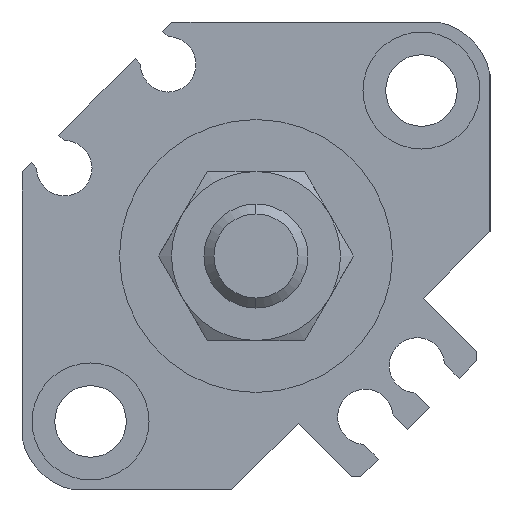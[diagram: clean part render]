
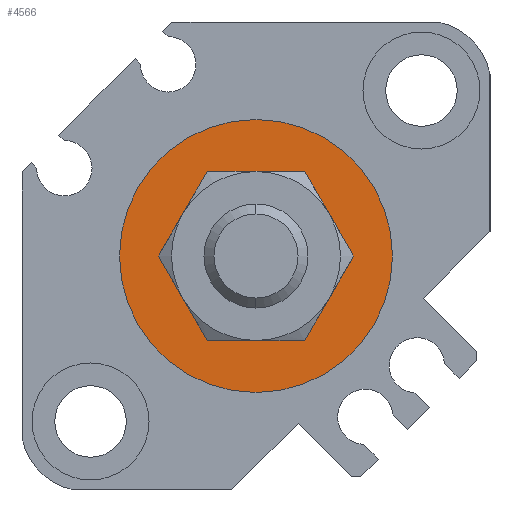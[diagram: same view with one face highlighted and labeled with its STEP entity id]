
A CAD part, left-side view. The second image highlights one B-rep face of the part: STEP entity #4566.
In plain terms, the highlighted planar face has unit normal (-1, 0, 0).
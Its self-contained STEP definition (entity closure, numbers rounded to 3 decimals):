
#122 = VERTEX_POINT ( 'NONE', #4356 ) ;
#190 = DIRECTION ( 'NONE',  ( 1., 0., 0. ) ) ;
#201 = CARTESIAN_POINT ( 'NONE',  ( 1.6, 0., 0. ) ) ;
#209 = CARTESIAN_POINT ( 'NONE',  ( 1.6, 0., 10.5 ) ) ;
#354 = EDGE_LOOP ( 'NONE', ( #4319, #4785 ) ) ;
#452 = EDGE_CURVE ( 'NONE', #2994, #4906, #3146, .T. ) ;
#643 = CARTESIAN_POINT ( 'NONE',  ( 1.6, 0., 0. ) ) ;
#663 = CIRCLE ( 'NONE', #3632, 10.5 ) ;
#728 = FACE_OUTER_BOUND ( 'NONE', #354, .T. ) ;
#1137 = DIRECTION ( 'NONE',  ( 0., 1., 0. ) ) ;
#1708 = AXIS2_PLACEMENT_3D ( 'NONE', #643, #4031, #1137 ) ;
#1710 = CIRCLE ( 'NONE', #2854, 10.5 ) ;
#1915 = EDGE_CURVE ( 'NONE', #122, #2193, #1710, .T. ) ;
#1957 = PLANE ( 'NONE',  #1708 ) ;
#2193 = VERTEX_POINT ( 'NONE', #209 ) ;
#2287 = DIRECTION ( 'NONE',  ( 0., 0., -1. ) ) ;
#2296 = CARTESIAN_POINT ( 'NONE',  ( 1.6, 0., 0. ) ) ;
#2392 = DIRECTION ( 'NONE',  ( 0., 0., -1. ) ) ;
#2458 = CIRCLE ( 'NONE', #2813, 6.5 ) ;
#2768 = CARTESIAN_POINT ( 'NONE',  ( 1.6, 0., -6.5 ) ) ;
#2813 = AXIS2_PLACEMENT_3D ( 'NONE', #2296, #3147, #3964 ) ;
#2854 = AXIS2_PLACEMENT_3D ( 'NONE', #3920, #190, #5350 ) ;
#2994 = VERTEX_POINT ( 'NONE', #3962 ) ;
#3146 = CIRCLE ( 'NONE', #4596, 6.5 ) ;
#3147 = DIRECTION ( 'NONE',  ( 1., 0., 0. ) ) ;
#3186 = CARTESIAN_POINT ( 'NONE',  ( 1.6, 0., 0. ) ) ;
#3312 = ORIENTED_EDGE ( 'NONE', *, *, #4075, .T. ) ;
#3328 = EDGE_CURVE ( 'NONE', #2193, #122, #663, .T. ) ;
#3632 = AXIS2_PLACEMENT_3D ( 'NONE', #201, #5177, #2287 ) ;
#3920 = CARTESIAN_POINT ( 'NONE',  ( 1.6, 0., 0. ) ) ;
#3962 = CARTESIAN_POINT ( 'NONE',  ( 1.6, 0., 6.5 ) ) ;
#3964 = DIRECTION ( 'NONE',  ( 0., 0., -1. ) ) ;
#4031 = DIRECTION ( 'NONE',  ( 1., 0., 0. ) ) ;
#4075 = EDGE_CURVE ( 'NONE', #4906, #2994, #2458, .T. ) ;
#4319 = ORIENTED_EDGE ( 'NONE', *, *, #3328, .F. ) ;
#4328 = EDGE_LOOP ( 'NONE', ( #5043, #3312 ) ) ;
#4356 = CARTESIAN_POINT ( 'NONE',  ( 1.6, 0., -10.5 ) ) ;
#4566 = ADVANCED_FACE ( 'NONE', ( #728, #5303 ), #1957, .F. ) ;
#4596 = AXIS2_PLACEMENT_3D ( 'NONE', #3186, #4838, #2392 ) ;
#4785 = ORIENTED_EDGE ( 'NONE', *, *, #1915, .F. ) ;
#4838 = DIRECTION ( 'NONE',  ( 1., 0., 0. ) ) ;
#4906 = VERTEX_POINT ( 'NONE', #2768 ) ;
#5043 = ORIENTED_EDGE ( 'NONE', *, *, #452, .T. ) ;
#5177 = DIRECTION ( 'NONE',  ( 1., 0., 0. ) ) ;
#5303 = FACE_BOUND ( 'NONE', #4328, .T. ) ;
#5350 = DIRECTION ( 'NONE',  ( 0., 0., -1. ) ) ;
